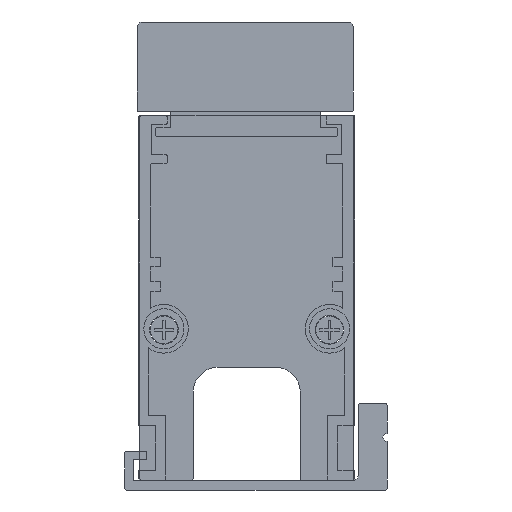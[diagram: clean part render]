
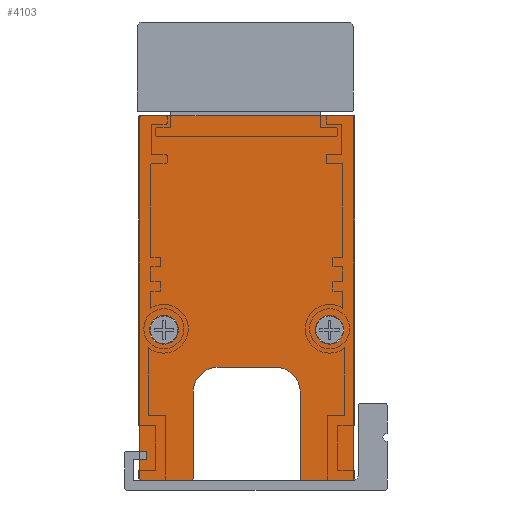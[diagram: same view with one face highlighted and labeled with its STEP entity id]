
A CAD part, front view. The second image highlights one B-rep face of the part: STEP entity #4103.
In plain terms, the highlighted planar face has unit normal (0, -1, 0).
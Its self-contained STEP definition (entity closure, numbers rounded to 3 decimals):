
#21=FACE_BOUND('',#601,.T.);
#22=FACE_BOUND('',#602,.T.);
#152=PLANE('',#4459);
#370=FACE_OUTER_BOUND('',#600,.T.);
#600=EDGE_LOOP('',(#3540,#3541,#3542,#3543,#3544,#3545,#3546,#3547,#3548,
#3549,#3550,#3551,#3552,#3553,#3554,#3555));
#601=EDGE_LOOP('',(#3556));
#602=EDGE_LOOP('',(#3557));
#966=LINE('',#6477,#1436);
#970=LINE('',#6489,#1440);
#974=LINE('',#6501,#1444);
#978=LINE('',#6513,#1448);
#982=LINE('',#6525,#1452);
#986=LINE('',#6537,#1456);
#990=LINE('',#6549,#1460);
#994=LINE('',#6560,#1464);
#1436=VECTOR('',#5303,10.);
#1440=VECTOR('',#5315,10.);
#1444=VECTOR('',#5327,10.);
#1448=VECTOR('',#5339,10.);
#1452=VECTOR('',#5351,10.);
#1456=VECTOR('',#5363,10.);
#1460=VECTOR('',#5375,10.);
#1464=VECTOR('',#5387,10.);
#1704=CIRCLE('',#4422,1.5);
#1706=CIRCLE('',#4425,1.5);
#1708=CIRCLE('',#4428,0.2);
#1710=CIRCLE('',#4432,0.2);
#1712=CIRCLE('',#4436,0.2);
#1714=CIRCLE('',#4440,0.2);
#1716=CIRCLE('',#4444,0.2);
#1718=CIRCLE('',#4448,0.2);
#1720=CIRCLE('',#4452,2.6);
#1722=CIRCLE('',#4456,2.6);
#1984=VERTEX_POINT('',#6455);
#1986=VERTEX_POINT('',#6461);
#1988=VERTEX_POINT('',#6467);
#1989=VERTEX_POINT('',#6468);
#1992=VERTEX_POINT('',#6476);
#1994=VERTEX_POINT('',#6482);
#1996=VERTEX_POINT('',#6488);
#1998=VERTEX_POINT('',#6494);
#2000=VERTEX_POINT('',#6500);
#2002=VERTEX_POINT('',#6506);
#2004=VERTEX_POINT('',#6512);
#2006=VERTEX_POINT('',#6518);
#2008=VERTEX_POINT('',#6524);
#2010=VERTEX_POINT('',#6530);
#2012=VERTEX_POINT('',#6536);
#2014=VERTEX_POINT('',#6542);
#2016=VERTEX_POINT('',#6548);
#2018=VERTEX_POINT('',#6554);
#2502=EDGE_CURVE('',#1984,#1984,#1704,.T.);
#2505=EDGE_CURVE('',#1986,#1986,#1706,.T.);
#2508=EDGE_CURVE('',#1988,#1989,#1708,.T.);
#2512=EDGE_CURVE('',#1989,#1992,#966,.T.);
#2515=EDGE_CURVE('',#1992,#1994,#1710,.T.);
#2518=EDGE_CURVE('',#1994,#1996,#970,.T.);
#2521=EDGE_CURVE('',#1996,#1998,#1712,.T.);
#2524=EDGE_CURVE('',#1998,#2000,#974,.T.);
#2527=EDGE_CURVE('',#2000,#2002,#1714,.T.);
#2530=EDGE_CURVE('',#2004,#2002,#978,.T.);
#2533=EDGE_CURVE('',#2004,#2006,#1716,.T.);
#2536=EDGE_CURVE('',#2008,#2006,#982,.T.);
#2539=EDGE_CURVE('',#2008,#2010,#1718,.T.);
#2542=EDGE_CURVE('',#2012,#2010,#986,.T.);
#2545=EDGE_CURVE('',#2014,#2012,#1720,.T.);
#2548=EDGE_CURVE('',#2016,#2014,#990,.T.);
#2551=EDGE_CURVE('',#2018,#2016,#1722,.T.);
#2554=EDGE_CURVE('',#2018,#1988,#994,.T.);
#3540=ORIENTED_EDGE('',*,*,#2554,.F.);
#3541=ORIENTED_EDGE('',*,*,#2551,.T.);
#3542=ORIENTED_EDGE('',*,*,#2548,.T.);
#3543=ORIENTED_EDGE('',*,*,#2545,.T.);
#3544=ORIENTED_EDGE('',*,*,#2542,.T.);
#3545=ORIENTED_EDGE('',*,*,#2539,.F.);
#3546=ORIENTED_EDGE('',*,*,#2536,.T.);
#3547=ORIENTED_EDGE('',*,*,#2533,.F.);
#3548=ORIENTED_EDGE('',*,*,#2530,.T.);
#3549=ORIENTED_EDGE('',*,*,#2527,.F.);
#3550=ORIENTED_EDGE('',*,*,#2524,.F.);
#3551=ORIENTED_EDGE('',*,*,#2521,.F.);
#3552=ORIENTED_EDGE('',*,*,#2518,.F.);
#3553=ORIENTED_EDGE('',*,*,#2515,.F.);
#3554=ORIENTED_EDGE('',*,*,#2512,.F.);
#3555=ORIENTED_EDGE('',*,*,#2508,.F.);
#3556=ORIENTED_EDGE('',*,*,#2502,.F.);
#3557=ORIENTED_EDGE('',*,*,#2505,.F.);
#4103=ADVANCED_FACE('',(#370,#21,#22),#152,.F.);
#4422=AXIS2_PLACEMENT_3D('',#6456,#5281,#5282);
#4425=AXIS2_PLACEMENT_3D('',#6462,#5288,#5289);
#4428=AXIS2_PLACEMENT_3D('',#6469,#5295,#5296);
#4432=AXIS2_PLACEMENT_3D('',#6483,#5308,#5309);
#4436=AXIS2_PLACEMENT_3D('',#6495,#5320,#5321);
#4440=AXIS2_PLACEMENT_3D('',#6507,#5332,#5333);
#4444=AXIS2_PLACEMENT_3D('',#6519,#5344,#5345);
#4448=AXIS2_PLACEMENT_3D('',#6531,#5356,#5357);
#4452=AXIS2_PLACEMENT_3D('',#6543,#5368,#5369);
#4456=AXIS2_PLACEMENT_3D('',#6555,#5380,#5381);
#4459=AXIS2_PLACEMENT_3D('',#6562,#5389,#5390);
#5281=DIRECTION('center_axis',(0.,-1.,0.));
#5282=DIRECTION('ref_axis',(1.,0.,0.));
#5288=DIRECTION('center_axis',(0.,-1.,0.));
#5289=DIRECTION('ref_axis',(1.,0.,0.));
#5295=DIRECTION('center_axis',(0.,1.,0.));
#5296=DIRECTION('ref_axis',(1.,0.,0.));
#5303=DIRECTION('',(-1.,0.,0.));
#5308=DIRECTION('center_axis',(0.,1.,0.));
#5309=DIRECTION('ref_axis',(0.,0.,-1.));
#5315=DIRECTION('',(0.,0.,1.));
#5320=DIRECTION('center_axis',(0.,1.,0.));
#5321=DIRECTION('ref_axis',(-1.,0.,0.));
#5327=DIRECTION('',(1.,0.,0.));
#5332=DIRECTION('center_axis',(0.,1.,0.));
#5333=DIRECTION('ref_axis',(0.,0.,1.));
#5339=DIRECTION('',(0.,0.,1.));
#5344=DIRECTION('center_axis',(0.,1.,0.));
#5345=DIRECTION('ref_axis',(1.,0.,0.));
#5351=DIRECTION('',(1.,0.,0.));
#5356=DIRECTION('center_axis',(0.,1.,0.));
#5357=DIRECTION('ref_axis',(0.,0.,-1.));
#5363=DIRECTION('',(0.,0.,-1.));
#5368=DIRECTION('center_axis',(0.,1.,0.));
#5369=DIRECTION('ref_axis',(0.,0.,1.));
#5375=DIRECTION('',(1.,0.,0.));
#5380=DIRECTION('center_axis',(0.,1.,0.));
#5381=DIRECTION('ref_axis',(-1.,0.,0.));
#5387=DIRECTION('',(0.,0.,-1.));
#5389=DIRECTION('center_axis',(0.,1.,0.));
#5390=DIRECTION('ref_axis',(1.,0.,0.));
#6455=CARTESIAN_POINT('',(7.136,-999.981,16.695));
#6456=CARTESIAN_POINT('Origin',(8.636,-999.981,16.695));
#6461=CARTESIAN_POINT('',(-10.136,-999.981,16.695));
#6462=CARTESIAN_POINT('Origin',(-8.636,-999.981,16.695));
#6467=CARTESIAN_POINT('',(-5.585,-999.981,1.177));
#6468=CARTESIAN_POINT('',(-5.785,-999.981,0.977));
#6469=CARTESIAN_POINT('Origin',(-5.785,-999.981,1.177));
#6476=CARTESIAN_POINT('',(-10.952,-999.981,0.977));
#6477=CARTESIAN_POINT('',(-5.785,-999.981,0.977));
#6482=CARTESIAN_POINT('',(-11.152,-999.981,1.177));
#6483=CARTESIAN_POINT('Origin',(-10.952,-999.981,1.177));
#6488=CARTESIAN_POINT('',(-11.152,-999.981,38.835));
#6489=CARTESIAN_POINT('',(-11.152,-999.981,1.177));
#6494=CARTESIAN_POINT('',(-10.952,-999.981,39.035));
#6495=CARTESIAN_POINT('Origin',(-10.952,-999.981,38.835));
#6500=CARTESIAN_POINT('',(10.945,-999.981,39.035));
#6501=CARTESIAN_POINT('',(-10.952,-999.981,39.035));
#6506=CARTESIAN_POINT('',(11.145,-999.981,38.835));
#6507=CARTESIAN_POINT('Origin',(10.945,-999.981,38.835));
#6512=CARTESIAN_POINT('',(11.145,-999.981,1.177));
#6513=CARTESIAN_POINT('',(11.145,-999.981,1.177));
#6518=CARTESIAN_POINT('',(10.945,-999.981,0.977));
#6519=CARTESIAN_POINT('Origin',(10.945,-999.981,1.177));
#6524=CARTESIAN_POINT('',(5.779,-999.981,0.977));
#6525=CARTESIAN_POINT('',(5.779,-999.981,0.977));
#6530=CARTESIAN_POINT('',(5.579,-999.981,1.177));
#6531=CARTESIAN_POINT('Origin',(5.779,-999.981,1.177));
#6536=CARTESIAN_POINT('',(5.579,-999.981,10.194));
#6537=CARTESIAN_POINT('',(5.579,-999.981,10.194));
#6542=CARTESIAN_POINT('',(2.979,-999.981,12.794));
#6543=CARTESIAN_POINT('Origin',(2.979,-999.981,10.194));
#6548=CARTESIAN_POINT('',(-2.985,-999.981,12.794));
#6549=CARTESIAN_POINT('',(-0.003,-999.981,12.794));
#6554=CARTESIAN_POINT('',(-5.585,-999.981,10.194));
#6555=CARTESIAN_POINT('Origin',(-2.985,-999.981,10.194));
#6560=CARTESIAN_POINT('',(-5.585,-999.981,10.194));
#6562=CARTESIAN_POINT('Origin',(-0.003,-999.981,
20.006));
